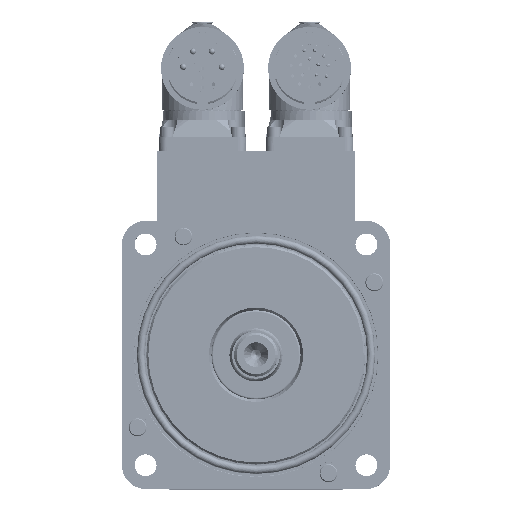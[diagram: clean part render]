
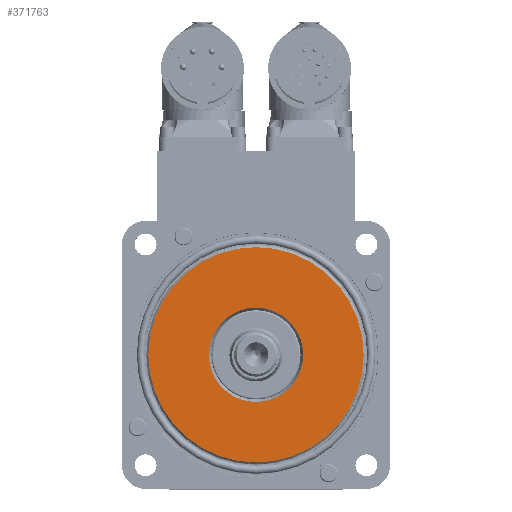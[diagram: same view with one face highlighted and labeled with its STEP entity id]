
A CAD part, top view. The second image highlights one B-rep face of the part: STEP entity #371763.
In plain terms, the highlighted planar face has unit normal (0, 0, 1).
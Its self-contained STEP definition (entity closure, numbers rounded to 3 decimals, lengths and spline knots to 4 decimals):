
#4091 = CARTESIAN_POINT ( 'NONE',  ( 0., 0., -1.0639 ) ) ;
#29421 = CARTESIAN_POINT ( 'NONE',  ( -0.5943, 0., -1.0639 ) ) ;
#42409 = CARTESIAN_POINT ( 'NONE',  ( 0., 1.358, -1.0639 ) ) ;
#52358 = DIRECTION ( 'NONE',  ( 0., 0., -1. ) ) ;
#70125 = VERTEX_POINT ( 'NONE', #417427 ) ;
#73737 = CIRCLE ( 'NONE', #459494, 0.5943 ) ;
#74882 = DIRECTION ( 'NONE',  ( -1., 0., 0. ) ) ;
#90479 = ORIENTED_EDGE ( 'NONE', *, *, #153292, .F. ) ;
#106033 = DIRECTION ( 'NONE',  ( 0., 0., -1. ) ) ;
#111337 = DIRECTION ( 'NONE',  ( -1., 0., 0. ) ) ;
#122903 = FACE_BOUND ( 'NONE', #423004, .T. ) ;
#131965 = ORIENTED_EDGE ( 'NONE', *, *, #527422, .F. ) ;
#153292 = EDGE_CURVE ( 'NONE', #154117, #220299, #342055, .T. ) ;
#154117 = VERTEX_POINT ( 'NONE', #172464 ) ;
#157543 = AXIS2_PLACEMENT_3D ( 'NONE', #473696, #106033, #111337 ) ;
#172464 = CARTESIAN_POINT ( 'NONE',  ( 1.358, 0., -1.0639 ) ) ;
#174692 = EDGE_CURVE ( 'NONE', #70125, #506245, #359575, .T. ) ;
#187748 = DIRECTION ( 'NONE',  ( 0., 0., -1. ) ) ;
#206101 = DIRECTION ( 'NONE',  ( 0., 0., 1. ) ) ;
#220299 = VERTEX_POINT ( 'NONE', #464468 ) ;
#241780 = DIRECTION ( 'NONE',  ( 0., 0., -1. ) ) ;
#291167 = DIRECTION ( 'NONE',  ( -1., 0., 0. ) ) ;
#299420 = AXIS2_PLACEMENT_3D ( 'NONE', #453628, #241780, #493869 ) ;
#329445 = FACE_OUTER_BOUND ( 'NONE', #342438, .T. ) ;
#342055 = CIRCLE ( 'NONE', #521707, 1.358 ) ;
#342438 = EDGE_LOOP ( 'NONE', ( #131965, #90479 ) ) ;
#359575 = CIRCLE ( 'NONE', #299420, 0.5943 ) ;
#361795 = EDGE_CURVE ( 'NONE', #506245, #70125, #73737, .T. ) ;
#369748 = DIRECTION ( 'NONE',  ( 1., 0., 0. ) ) ;
#371763 = ADVANCED_FACE ( 'NONE', ( #122903, #329445 ), #450300, .T. ) ;
#386461 = ORIENTED_EDGE ( 'NONE', *, *, #361795, .T. ) ;
#417427 = CARTESIAN_POINT ( 'NONE',  ( 0.5943, 0., -1.0639 ) ) ;
#423004 = EDGE_LOOP ( 'NONE', ( #496437, #386461 ) ) ;
#431888 = CIRCLE ( 'NONE', #157543, 1.358 ) ;
#450300 = PLANE ( 'NONE',  #485347 ) ;
#453628 = CARTESIAN_POINT ( 'NONE',  ( 0., 0., -1.0639 ) ) ;
#459494 = AXIS2_PLACEMENT_3D ( 'NONE', #515094, #187748, #74882 ) ;
#464468 = CARTESIAN_POINT ( 'NONE',  ( -1.358, 0., -1.0639 ) ) ;
#473696 = CARTESIAN_POINT ( 'NONE',  ( 0., 0., -1.0639 ) ) ;
#485347 = AXIS2_PLACEMENT_3D ( 'NONE', #42409, #206101, #369748 ) ;
#493869 = DIRECTION ( 'NONE',  ( -1., 0., 0. ) ) ;
#496437 = ORIENTED_EDGE ( 'NONE', *, *, #174692, .T. ) ;
#506245 = VERTEX_POINT ( 'NONE', #29421 ) ;
#515094 = CARTESIAN_POINT ( 'NONE',  ( 0., 0., -1.0639 ) ) ;
#521707 = AXIS2_PLACEMENT_3D ( 'NONE', #4091, #52358, #291167 ) ;
#527422 = EDGE_CURVE ( 'NONE', #220299, #154117, #431888, .T. ) ;
